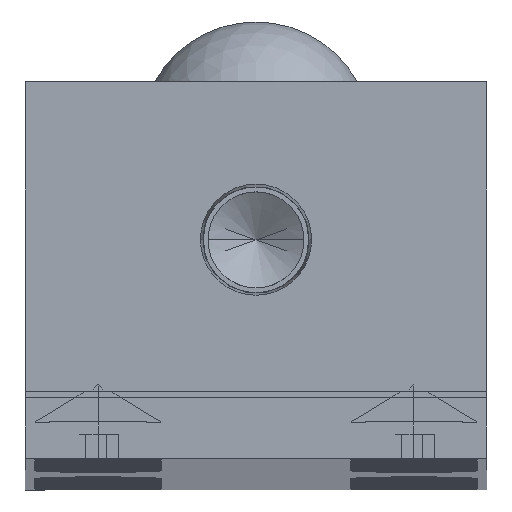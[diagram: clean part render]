
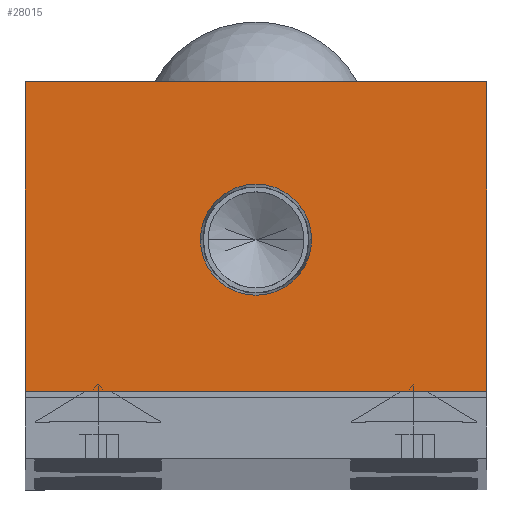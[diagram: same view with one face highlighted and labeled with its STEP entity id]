
A CAD part, top view. The second image highlights one B-rep face of the part: STEP entity #28015.
In plain terms, the highlighted planar face has unit normal (0, 0, 1).
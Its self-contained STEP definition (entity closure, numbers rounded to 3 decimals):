
#130 = EDGE_LOOP ( 'NONE', ( #13941, #3051, #26187, #23604 ) ) ;
#577 = CARTESIAN_POINT ( 'NONE',  ( 0., 18., 0. ) ) ;
#3025 = PLANE ( 'NONE',  #27154 ) ;
#3051 = ORIENTED_EDGE ( 'NONE', *, *, #29740, .T. ) ;
#3074 = DIRECTION ( 'NONE',  ( 1., 0., 0. ) ) ;
#4233 = VERTEX_POINT ( 'NONE', #9018 ) ;
#5503 = DIRECTION ( 'NONE',  ( -1., 0., 0. ) ) ;
#5565 = CARTESIAN_POINT ( 'NONE',  ( 4.574, 18., 0. ) ) ;
#6122 = VERTEX_POINT ( 'NONE', #7517 ) ;
#6258 = EDGE_CURVE ( 'NONE', #26099, #8064, #15951, .T. ) ;
#6628 = CARTESIAN_POINT ( 'NONE',  ( -19., 31., 0. ) ) ;
#6860 = EDGE_CURVE ( 'NONE', #8064, #26099, #11292, .T. ) ;
#7517 = CARTESIAN_POINT ( 'NONE',  ( -19., 5.5, 0. ) ) ;
#7760 = CARTESIAN_POINT ( 'NONE',  ( -4.574, 18., 0. ) ) ;
#8064 = VERTEX_POINT ( 'NONE', #5565 ) ;
#9018 = CARTESIAN_POINT ( 'NONE',  ( -19., 31., 0. ) ) ;
#10467 = DIRECTION ( 'NONE',  ( 1., 0., 0. ) ) ;
#11292 = CIRCLE ( 'NONE', #24391, 4.574 ) ;
#11802 = EDGE_CURVE ( 'NONE', #19225, #4233, #11825, .T. ) ;
#11825 = LINE ( 'NONE', #20383, #22655 ) ;
#12777 = CARTESIAN_POINT ( 'NONE',  ( 19., 5.5, 0. ) ) ;
#13001 = DIRECTION ( 'NONE',  ( 0., 0., 1. ) ) ;
#13334 = EDGE_CURVE ( 'NONE', #6122, #31025, #19216, .T. ) ;
#13941 = ORIENTED_EDGE ( 'NONE', *, *, #13334, .T. ) ;
#15302 = LINE ( 'NONE', #23238, #25020 ) ;
#15951 = CIRCLE ( 'NONE', #16834, 4.574 ) ;
#16834 = AXIS2_PLACEMENT_3D ( 'NONE', #27817, #13001, #30298 ) ;
#17360 = LINE ( 'NONE', #6628, #24780 ) ;
#17861 = DIRECTION ( 'NONE',  ( 0., 0., 1. ) ) ;
#18901 = FACE_BOUND ( 'NONE', #19067, .T. ) ;
#19067 = EDGE_LOOP ( 'NONE', ( #23519, #19358 ) ) ;
#19216 = LINE ( 'NONE', #12777, #25050 ) ;
#19225 = VERTEX_POINT ( 'NONE', #23874 ) ;
#19358 = ORIENTED_EDGE ( 'NONE', *, *, #6258, .F. ) ;
#20383 = CARTESIAN_POINT ( 'NONE',  ( 19., 31., 0. ) ) ;
#22655 = VECTOR ( 'NONE', #5503, 1000. ) ;
#22689 = CARTESIAN_POINT ( 'NONE',  ( 0., 0., 0. ) ) ;
#23238 = CARTESIAN_POINT ( 'NONE',  ( 19., 5.5, 0. ) ) ;
#23519 = ORIENTED_EDGE ( 'NONE', *, *, #6860, .F. ) ;
#23604 = ORIENTED_EDGE ( 'NONE', *, *, #27669, .T. ) ;
#23874 = CARTESIAN_POINT ( 'NONE',  ( 19., 31., 0. ) ) ;
#23923 = DIRECTION ( 'NONE',  ( 0., -1., 0. ) ) ;
#24391 = AXIS2_PLACEMENT_3D ( 'NONE', #577, #17861, #3074 ) ;
#24780 = VECTOR ( 'NONE', #23923, 1000. ) ;
#25020 = VECTOR ( 'NONE', #25725, 1000. ) ;
#25050 = VECTOR ( 'NONE', #30170, 1000. ) ;
#25311 = DIRECTION ( 'NONE',  ( 0., 0., 1. ) ) ;
#25511 = FACE_OUTER_BOUND ( 'NONE', #130, .T. ) ;
#25725 = DIRECTION ( 'NONE',  ( 0., 1., 0. ) ) ;
#26099 = VERTEX_POINT ( 'NONE', #7760 ) ;
#26187 = ORIENTED_EDGE ( 'NONE', *, *, #11802, .T. ) ;
#27154 = AXIS2_PLACEMENT_3D ( 'NONE', #22689, #25311, #10467 ) ;
#27669 = EDGE_CURVE ( 'NONE', #4233, #6122, #17360, .T. ) ;
#27817 = CARTESIAN_POINT ( 'NONE',  ( 0., 18., 0. ) ) ;
#28015 = ADVANCED_FACE ( 'NONE', ( #18901, #25511 ), #3025, .T. ) ;
#29740 = EDGE_CURVE ( 'NONE', #31025, #19225, #15302, .T. ) ;
#30170 = DIRECTION ( 'NONE',  ( 1., 0., 0. ) ) ;
#30298 = DIRECTION ( 'NONE',  ( 1., 0., 0. ) ) ;
#31025 = VERTEX_POINT ( 'NONE', #31033 ) ;
#31033 = CARTESIAN_POINT ( 'NONE',  ( 19., 5.5, 0. ) ) ;
